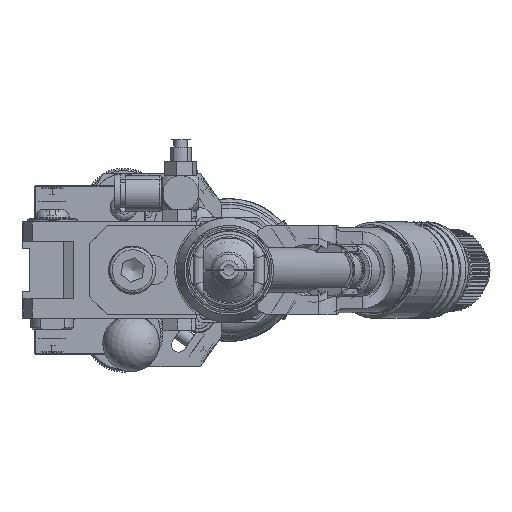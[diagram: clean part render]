
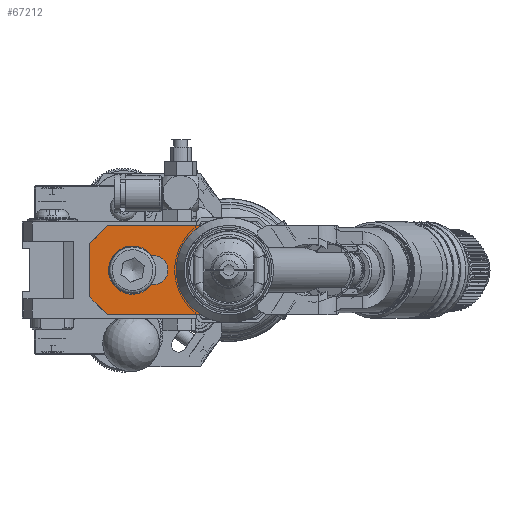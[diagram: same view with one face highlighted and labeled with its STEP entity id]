
A CAD part, left-side view. The second image highlights one B-rep face of the part: STEP entity #67212.
In plain terms, the highlighted planar face has unit normal (-1, 0, 0).
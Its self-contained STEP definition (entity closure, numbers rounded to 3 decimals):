
#2366=PLANE('',#71613);
#3896=FACE_BOUND('',#20783,.T.);
#4965=CIRCLE('',#71597,6.75);
#4968=CIRCLE('',#71603,4.1);
#4969=CIRCLE('',#71606,1.);
#4974=CIRCLE('',#71614,12.5);
#4975=CIRCLE('',#71615,1.);
#7925=LINE('',#101179,#12171);
#7930=LINE('',#101191,#12176);
#7936=LINE('',#101219,#12182);
#7937=LINE('',#101221,#12183);
#7938=LINE('',#101223,#12184);
#7939=LINE('',#101225,#12185);
#7940=LINE('',#101227,#12186);
#7941=LINE('',#101229,#12187);
#7942=LINE('',#101230,#12188);
#12171=VECTOR('',#80009,10.);
#12176=VECTOR('',#80022,10.);
#12182=VECTOR('',#80050,10.);
#12183=VECTOR('',#80051,10.);
#12184=VECTOR('',#80052,10.);
#12185=VECTOR('',#80053,10.);
#12186=VECTOR('',#80054,10.);
#12187=VECTOR('',#80055,10.);
#12188=VECTOR('',#80056,10.);
#17023=FACE_OUTER_BOUND('',#20782,.T.);
#20782=EDGE_LOOP('',(#47281,#47282,#47283,#47284,#47285,#47286,#47287,#47288,
#47289,#47290));
#20783=EDGE_LOOP('',(#47291,#47292,#47293,#47294));
#27344=VERTEX_POINT('',#101166);
#27345=VERTEX_POINT('',#101168);
#27348=VERTEX_POINT('',#101178);
#27351=VERTEX_POINT('',#101186);
#27352=VERTEX_POINT('',#101193);
#27353=VERTEX_POINT('',#101194);
#27360=VERTEX_POINT('',#101214);
#27361=VERTEX_POINT('',#101216);
#27362=VERTEX_POINT('',#101218);
#27363=VERTEX_POINT('',#101220);
#27364=VERTEX_POINT('',#101222);
#27365=VERTEX_POINT('',#101224);
#27366=VERTEX_POINT('',#101226);
#27367=VERTEX_POINT('',#101228);
#34880=EDGE_CURVE('',#27345,#27344,#4965,.T.);
#34885=EDGE_CURVE('',#27348,#27345,#7925,.T.);
#34889=EDGE_CURVE('',#27351,#27348,#4968,.T.);
#34892=EDGE_CURVE('',#27344,#27351,#7930,.T.);
#34893=EDGE_CURVE('',#27352,#27353,#4969,.T.);
#34903=EDGE_CURVE('',#27352,#27360,#4974,.T.);
#34904=EDGE_CURVE('',#27361,#27360,#4975,.T.);
#34905=EDGE_CURVE('',#27361,#27362,#7936,.T.);
#34906=EDGE_CURVE('',#27362,#27363,#7937,.T.);
#34907=EDGE_CURVE('',#27364,#27363,#7938,.T.);
#34908=EDGE_CURVE('',#27364,#27365,#7939,.T.);
#34909=EDGE_CURVE('',#27366,#27365,#7940,.T.);
#34910=EDGE_CURVE('',#27366,#27367,#7941,.T.);
#34911=EDGE_CURVE('',#27367,#27353,#7942,.T.);
#47281=ORIENTED_EDGE('',*,*,#34893,.F.);
#47282=ORIENTED_EDGE('',*,*,#34903,.T.);
#47283=ORIENTED_EDGE('',*,*,#34904,.F.);
#47284=ORIENTED_EDGE('',*,*,#34905,.T.);
#47285=ORIENTED_EDGE('',*,*,#34906,.T.);
#47286=ORIENTED_EDGE('',*,*,#34907,.F.);
#47287=ORIENTED_EDGE('',*,*,#34908,.T.);
#47288=ORIENTED_EDGE('',*,*,#34909,.F.);
#47289=ORIENTED_EDGE('',*,*,#34910,.T.);
#47290=ORIENTED_EDGE('',*,*,#34911,.T.);
#47291=ORIENTED_EDGE('',*,*,#34880,.T.);
#47292=ORIENTED_EDGE('',*,*,#34892,.T.);
#47293=ORIENTED_EDGE('',*,*,#34889,.T.);
#47294=ORIENTED_EDGE('',*,*,#34885,.T.);
#67212=ADVANCED_FACE('',(#17023,#3896),#2366,.T.);
#71597=AXIS2_PLACEMENT_3D('',#101169,#79998,#79999);
#71603=AXIS2_PLACEMENT_3D('',#101187,#80016,#80017);
#71606=AXIS2_PLACEMENT_3D('',#101195,#80025,#80026);
#71613=AXIS2_PLACEMENT_3D('',#101213,#80044,#80045);
#71614=AXIS2_PLACEMENT_3D('',#101215,#80046,#80047);
#71615=AXIS2_PLACEMENT_3D('',#101217,#80048,#80049);
#79998=DIRECTION('center_axis',(1.,0.,0.));
#79999=DIRECTION('ref_axis',(0.,1.,0.));
#80009=DIRECTION('',(0.,1.,0.));
#80016=DIRECTION('center_axis',(1.,0.,0.));
#80017=DIRECTION('ref_axis',(0.,0.,
1.));
#80022=DIRECTION('',(0.,-1.,0.));
#80025=DIRECTION('center_axis',(1.,0.,0.));
#80026=DIRECTION('ref_axis',(0.,-0.892,0.451));
#80044=DIRECTION('center_axis',(-1.,0.,0.));
#80045=DIRECTION('ref_axis',(0.,0.,
-1.));
#80046=DIRECTION('center_axis',(1.,0.,0.));
#80047=DIRECTION('ref_axis',(0.,1.,0.));
#80048=DIRECTION('center_axis',(1.,0.,0.));
#80049=DIRECTION('ref_axis',(0.,-0.892,-0.451));
#80050=DIRECTION('',(0.,0.,1.));
#80051=DIRECTION('',(0.,1.,0.));
#80052=DIRECTION('',(0.,-0.707,0.707));
#80053=DIRECTION('',(0.,0.,-1.));
#80054=DIRECTION('',(0.,0.707,0.707));
#80055=DIRECTION('',(0.,-1.,0.));
#80056=DIRECTION('',(0.,0.,1.));
#101166=CARTESIAN_POINT('',(110.5,21.638,4.917));
#101168=CARTESIAN_POINT('',(110.5,21.638,-3.283));
#101169=CARTESIAN_POINT('Origin',(110.5,27.,0.817));
#101178=CARTESIAN_POINT('',(110.5,21.2,-3.283));
#101179=CARTESIAN_POINT('',(110.5,17.,-3.283));
#101186=CARTESIAN_POINT('',(110.5,21.2,4.917));
#101187=CARTESIAN_POINT('Origin',(110.5,21.2,0.817));
#101191=CARTESIAN_POINT('',(110.5,14.1,4.917));
#101193=CARTESIAN_POINT('',(110.5,7.407,-9.252));
#101194=CARTESIAN_POINT('',(110.5,7.,-10.057));
#101195=CARTESIAN_POINT('Origin',(110.5,8.,-10.057));
#101213=CARTESIAN_POINT('Origin',(110.5,7.,0.817));
#101214=CARTESIAN_POINT('',(110.5,7.407,10.886));
#101215=CARTESIAN_POINT('Origin',(110.5,0.,
0.817));
#101216=CARTESIAN_POINT('',(110.5,7.,11.691));
#101217=CARTESIAN_POINT('Origin',(110.5,8.,11.691));
#101218=CARTESIAN_POINT('',(110.5,7.,13.317));
#101219=CARTESIAN_POINT('',(110.5,7.,0.817));
#101220=CARTESIAN_POINT('',(110.5,34.,13.317));
#101221=CARTESIAN_POINT('',(110.5,39.,13.317));
#101222=CARTESIAN_POINT('',(110.5,39.,8.317));
#101223=CARTESIAN_POINT('',(110.5,31.625,15.692));
#101224=CARTESIAN_POINT('',(110.5,39.,-6.683));
#101225=CARTESIAN_POINT('',(110.5,39.,0.817));
#101226=CARTESIAN_POINT('',(110.5,34.,-11.683));
#101227=CARTESIAN_POINT('',(110.5,31.625,-14.058));
#101228=CARTESIAN_POINT('',(110.5,7.,-11.683));
#101229=CARTESIAN_POINT('',(110.5,39.,-11.683));
#101230=CARTESIAN_POINT('',(110.5,7.,0.817));
